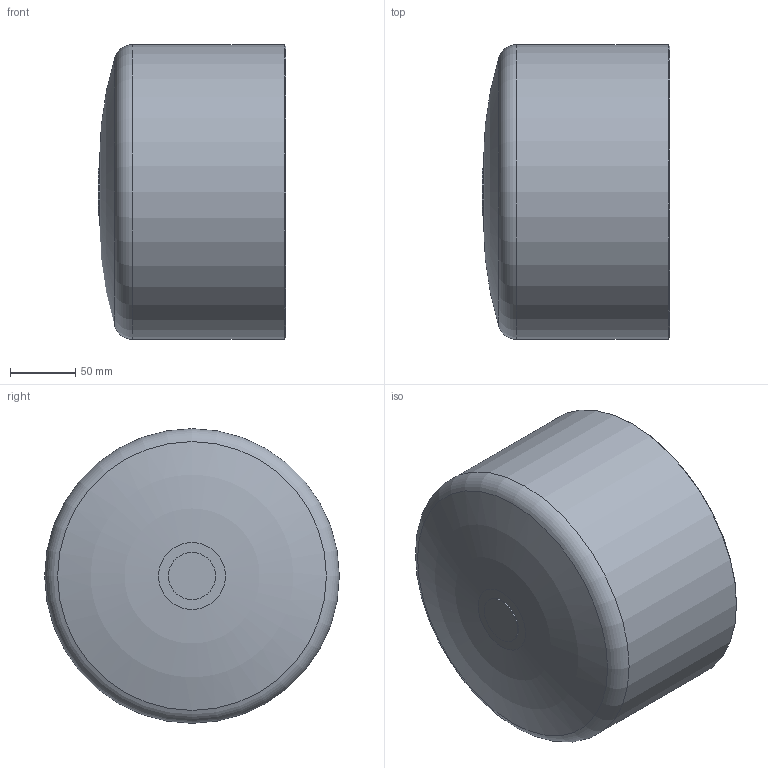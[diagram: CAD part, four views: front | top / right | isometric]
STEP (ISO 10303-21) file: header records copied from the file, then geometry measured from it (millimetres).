
FILE_DESCRIPTION(/* description */ ('Unknown'),/* implementation_level */ '2;1');
FILE_NAME(/* name */ 'CAP225C',/* time_stamp */ '2021-02-04T10:03:35+01:00',/* author */ ('Unknown'),/* organization */ ('Unknown'),/* preprocessor_version */ 'ST-DEVELOPER v16.7',/* originating_system */ 'Solid Edge',/* authorisation */ 'Unknown');
FILE_SCHEMA (('AUTOMOTIVE_DESIGN {1 0 10303 214 3 1 1}'));
Length unit declared in the file: millimetre
Products named in the file (1): CAP225C
Bounding box: 143 x 225 x 225 mm (x, y, z)
Volume: 2326228.8 mm3; surface area: 231031 mm2
Topology: 1 solids, 1 shells, 12 faces, 20 edges, 12 vertices
Faces by surface type: plane 4, torus 4, cylinder 3, cone 1
Full cylindrical faces by diameter (mm): 36 x1, 184 x1, 225 x1
Entity records: 264 total; most frequent: DIRECTION 48, CARTESIAN_POINT 35, AXIS2_PLACEMENT_3D 24, ORIENTED_EDGE 22, EDGE_LOOP 22, FACE_BOUND 22, ADVANCED_FACE 12, EDGE_CURVE 11
